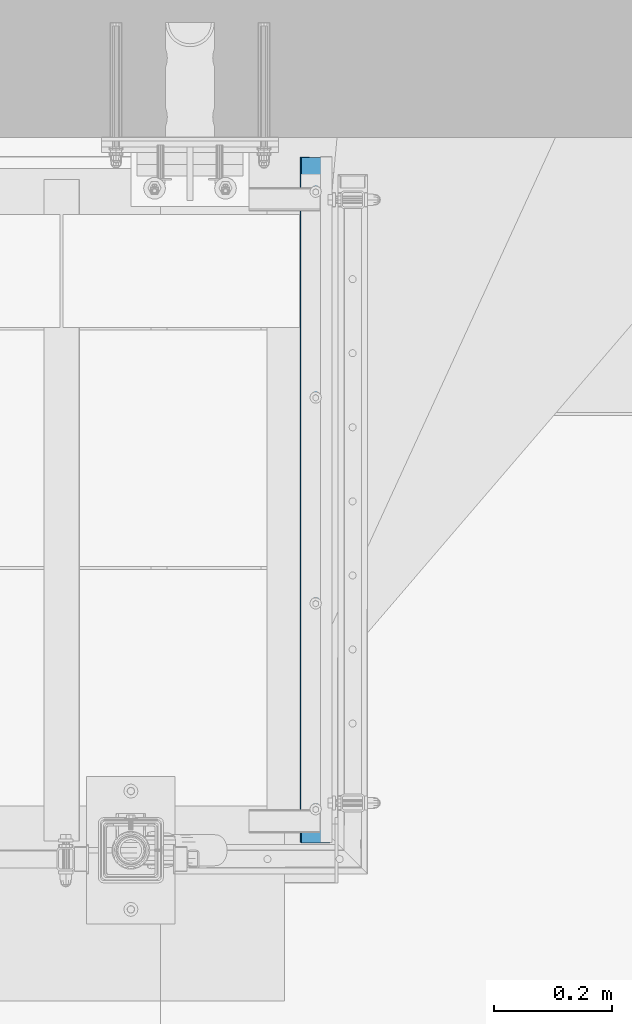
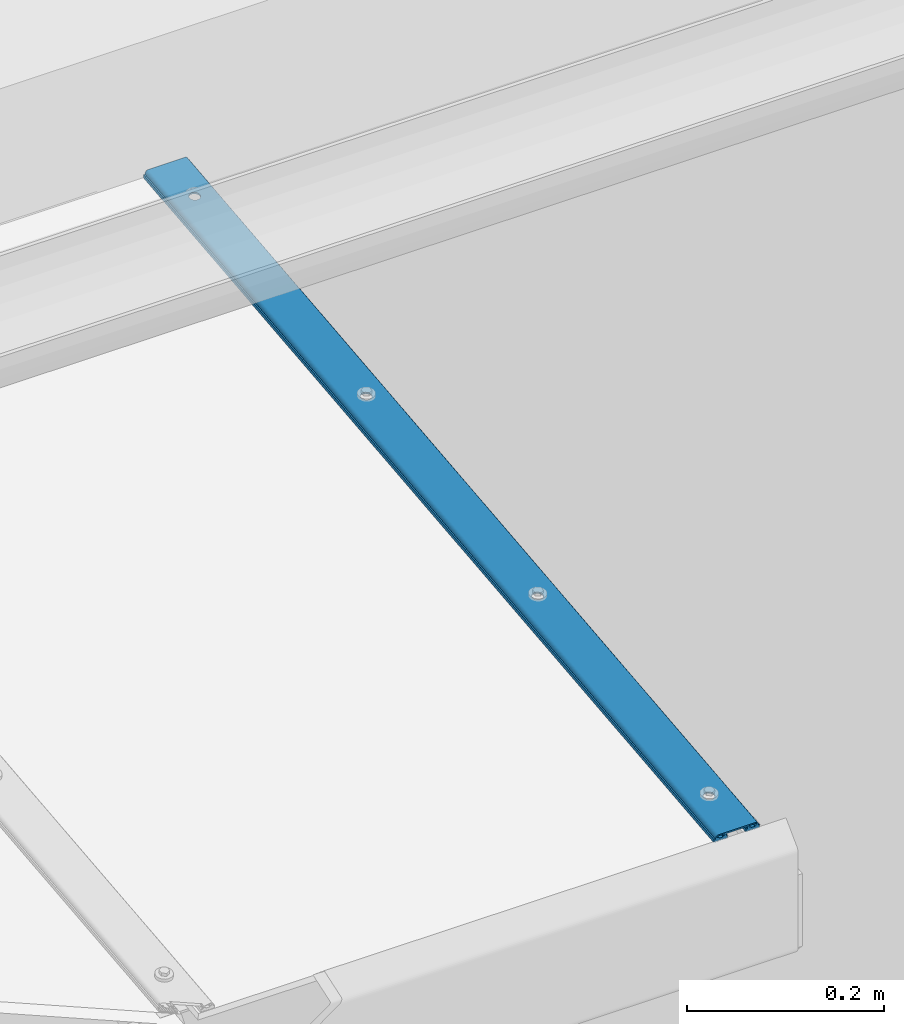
# One storey, part 46 of 162: 1 member, 4 openings.
"""IFC2X3 building model written with IfcOpenShell, lengths in millimetres."""

from ifc_helpers import new_model, entity, si_unit, converted_unit, point, frame, frame_2d, origin, origin_with_axes, origin_2d_with_axis, place, context, project, spatial, circle_curve, line_curve, trimmed, segment, composite_curve, circle, outline, extrude, material, element, save


model = new_model("IFC2X3")

# Units and contexts
model_context = context("Model", 3, precision=1e-09, world=origin_with_axes())
ifc_project = project(units=[si_unit("LENGTHUNIT", "METRE", prefix="MILLI"), si_unit("AREAUNIT", "SQUARE_METRE"), si_unit("VOLUMEUNIT", "CUBIC_METRE"), converted_unit("PLANEANGLEUNIT", "DEGREE", entity("IfcPlaneAngleMeasure", 0.01745329), si_unit("PLANEANGLEUNIT", "RADIAN"), dimensions=[0, 0, 0, 0, 0, 0, 0])], contexts=[model_context])

# Site, building, storey
site_placement = place(None, origin_with_axes())
site = spatial("IfcSite", under=ifc_project, at=site_placement, Name="Hermannstra?e 1a, 60318 Frankfurt", CompositionType="ELEMENT")
building_placement = place(site_placement, origin_with_axes())
building = spatial("IfcBuilding", under=site, at=building_placement, Name="Struktur 1", CompositionType="ELEMENT")
storey_placement = place(building_placement, origin_with_axes())
storey = spatial("IfcBuildingStorey", under=building, at=storey_placement, Name="Default Storey", CompositionType="ELEMENT", Elevation=0.0)

# Member, openings
ifc_material = material(Name="Alu")
member_placement = place(None, frame((5785.80936482, 1543.575957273, 17399.432480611), z_axis=(0.0, -0.994521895, -0.104528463), x_axis=(1.0, 0.0, 0.0)))
member = element("IfcMember", 1, at=member_placement, inside=storey, material=ifc_material, Name="Girder", ObjectType="Girder", context=model_context, shape_type="SweptSolid", body=[
    extrude(outline(composite_curve([segment(trimmed(line_curve((10.75, -4.5), (1.0, 0.0), 0.5), [point((10.75, -4.5))], [point((11.25, -4.5))], True, "CARTESIAN"), True, "CONTINUOUS"), segment(trimmed(line_curve((11.25, -4.5), (0.0, 1.0), 1.0), [point((11.25, -4.5))], [point((11.25, -3.5))], True, "CARTESIAN"), True, "CONTINUOUS"), segment(trimmed(line_curve((11.25, -3.5), (1.0, 0.0), 1.0), [point((11.25, -3.5))], [point((12.25, -3.5))], True, "CARTESIAN"), True, "CONTINUOUS"), segment(trimmed(line_curve((12.25, -3.5), (0.0, -1.0), 1.0), [point((12.25, -3.5))], [point((12.25, -4.5))], True, "CARTESIAN"), True, "CONTINUOUS"), segment(trimmed(line_curve((12.25, -4.5), (1.0, 0.0), 1.0), [point((12.25, -4.5))], [point((13.25, -4.5))], True, "CARTESIAN"), True, "CONTINUOUS"), segment(trimmed(line_curve((13.25, -4.5), (0.0, 1.0), 1.0), [point((13.25, -4.5))], [point((13.25, -3.5))], True, "CARTESIAN"), True, "CONTINUOUS"), segment(trimmed(line_curve((13.25, -3.5), (1.0, 0.0), 1.0), [point((13.25, -3.5))], [point((14.25, -3.5))], True, "CARTESIAN"), True, "CONTINUOUS"), segment(trimmed(line_curve((14.25, -3.5), (0.0, -1.0), 1.0), [point((14.25, -3.5))], [point((14.25, -4.5))], True, "CARTESIAN"), True, "CONTINUOUS"), segment(trimmed(line_curve((14.25, -4.5), (1.0, 0.0), 1.0), [point((14.25, -4.5))], [point((15.25, -4.5))], True, "CARTESIAN"), True, "CONTINUOUS"), segment(trimmed(line_curve((15.25, -4.5), (0.0, 1.0), 1.0), [point((15.25, -4.5))], [point((15.25, -3.5))], True, "CARTESIAN"), True, "CONTINUOUS"), segment(trimmed(line_curve((15.25, -3.5), (1.0, 0.0), 1.0), [point((15.25, -3.5))], [point((16.25, -3.5))], True, "CARTESIAN"), True, "CONTINUOUS"), segment(trimmed(line_curve((16.25, -3.5), (0.0, -1.0), 1.0), [point((16.25, -3.5))], [point((16.25, -4.5))], True, "CARTESIAN"), True, "CONTINUOUS"), segment(trimmed(line_curve((16.25, -4.5), (1.0, 0.0), 1.0), [point((16.25, -4.5))], [point((17.25, -4.5))], True, "CARTESIAN"), True, "CONTINUOUS"), segment(trimmed(line_curve((17.25, -4.5), (0.0, 1.0), 1.0), [point((17.25, -4.5))], [point((17.25, -3.5))], True, "CARTESIAN"), True, "CONTINUOUS"), segment(trimmed(line_curve((17.25, -3.5), (1.0, 0.0), 1.0), [point((17.25, -3.5))], [point((18.25, -3.5))], True, "CARTESIAN"), True, "CONTINUOUS"), segment(trimmed(line_curve((18.25, -3.5), (0.0, -1.0), 1.0), [point((18.25, -3.5))], [point((18.25, -4.5))], True, "CARTESIAN"), True, "CONTINUOUS"), segment(trimmed(line_curve((18.25, -4.5), (1.0, 0.0), 1.0), [point((18.25, -4.5))], [point((19.25, -4.5))], True, "CARTESIAN"), True, "CONTINUOUS"), segment(trimmed(line_curve((19.25, -4.5), (0.0, 1.0), 1.0), [point((19.25, -4.5))], [point((19.25, -3.5))], True, "CARTESIAN"), True, "CONTINUOUS"), segment(trimmed(line_curve((19.25, -3.5), (1.0, 0.0), 1.0), [point((19.25, -3.5))], [point((20.25, -3.5))], True, "CARTESIAN"), True, "CONTINUOUS"), segment(trimmed(line_curve((20.25, -3.5), (0.0, -1.0), 1.0), [point((20.25, -3.5))], [point((20.25, -4.5))], True, "CARTESIAN"), True, "CONTINUOUS"), segment(trimmed(line_curve((20.25, -4.5), (1.0, 0.0), 1.0), [point((20.25, -4.5))], [point((21.25, -4.5))], True, "CARTESIAN"), True, "CONTINUOUS"), segment(trimmed(line_curve((21.25, -4.5), (0.0, 1.0), 1.0), [point((21.25, -4.5))], [point((21.25, -3.5))], True, "CARTESIAN"), True, "CONTINUOUS"), segment(trimmed(line_curve((21.25, -3.5), (1.0, 0.0), 1.0), [point((21.25, -3.5))], [point((22.25, -3.5))], True, "CARTESIAN"), True, "CONTINUOUS"), segment(trimmed(line_curve((22.25, -3.5), (0.0, -1.0), 1.0), [point((22.25, -3.5))], [point((22.25, -4.5))], True, "CARTESIAN"), True, "CONTINUOUS"), segment(trimmed(line_curve((22.25, -4.5), (1.0, 0.0), 1.0), [point((22.25, -4.5))], [point((23.25, -4.5))], True, "CARTESIAN"), True, "CONTINUOUS"), segment(trimmed(line_curve((23.25, -4.5), (0.0, 1.0), 1.0), [point((23.25, -4.5))], [point((23.25, -3.5))], True, "CARTESIAN"), True, "CONTINUOUS"), segment(trimmed(line_curve((23.25, -3.5), (1.0, 0.0), 1.0), [point((23.25, -3.5))], [point((24.25, -3.5))], True, "CARTESIAN"), True, "CONTINUOUS"), segment(trimmed(line_curve((24.25, -3.5), (0.0, -1.0), 1.0), [point((24.25, -3.5))], [point((24.25, -4.5))], True, "CARTESIAN"), True, "CONTINUOUS"), segment(trimmed(line_curve((24.25, -4.5), (1.0, 0.0), 1.0), [point((24.25, -4.5))], [point((25.25, -4.5))], True, "CARTESIAN"), True, "CONTINUOUS"), segment(trimmed(line_curve((25.25, -4.5), (0.0, 1.0), 1.0), [point((25.25, -4.5))], [point((25.25, -3.5))], True, "CARTESIAN"), True, "CONTINUOUS"), segment(trimmed(line_curve((25.25, -3.5), (1.0, 0.0), 1.0), [point((25.25, -3.5))], [point((26.25, -3.5))], True, "CARTESIAN"), True, "CONTINUOUS"), segment(trimmed(line_curve((26.25, -3.5), (0.0, -1.0), 1.0), [point((26.25, -3.5))], [point((26.25, -4.5))], True, "CARTESIAN"), True, "CONTINUOUS"), segment(trimmed(line_curve((26.25, -4.5), (1.0, 0.0), 0.5), [point((26.25, -4.5))], [point((26.75, -4.5))], True, "CARTESIAN"), True, "CONTINUOUS"), segment(trimmed(line_curve((26.75, -4.5), (0.0, 1.0), 4.0), [point((26.75, -4.5))], [point((26.75, -0.5))], True, "CARTESIAN"), True, "CONTINUOUS"), segment(trimmed(line_curve((26.75, -0.5), (-1.0, 0.0), 1.75), [point((26.75, -0.5))], [point((25.0, -0.5))], True, "CARTESIAN"), True, "CONTINUOUS"), segment(trimmed(line_curve((25.0, -0.5), (0.0, 1.0), 1.5), [point((25.0, -0.5))], [point((25.0, 1.0))], True, "CARTESIAN"), True, "CONTINUOUS"), segment(trimmed(circle_curve(frame_2d((21.499999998, 0.999999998), x_axis=(1.0, 0.0)), 3.500000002), [point((25.0, 1.0))], [point((21.5, 4.5))], True, "CARTESIAN"), True, "CONTINUOUS"), segment(trimmed(line_curve((21.5, 4.5), (-1.0, 0.0), 43.0), [point((21.5, 4.5))], [point((-21.5, 4.5))], True, "CARTESIAN"), True, "CONTINUOUS"), segment(trimmed(circle_curve(frame_2d((-21.499999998, 0.999999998), x_axis=(1.0, 0.0)), 3.500000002), [point((-21.5, 4.5))], [point((-25.0, 1.0))], True, "CARTESIAN"), True, "CONTINUOUS"), segment(trimmed(line_curve((-25.0, 1.0), (0.0, -1.0), 1.5), [point((-25.0, 1.0))], [point((-25.0, -0.5))], True, "CARTESIAN"), True, "CONTINUOUS"), segment(trimmed(line_curve((-25.0, -0.5), (-1.0, 0.0), 1.75), [point((-25.0, -0.5))], [point((-26.75, -0.5))], True, "CARTESIAN"), True, "CONTINUOUS"), segment(trimmed(line_curve((-26.75, -0.5), (0.0, -1.0), 4.0), [point((-26.75, -0.5))], [point((-26.75, -4.5))], True, "CARTESIAN"), True, "CONTINUOUS"), segment(trimmed(line_curve((-26.75, -4.5), (1.0, 0.0), 0.5), [point((-26.75, -4.5))], [point((-26.25, -4.5))], True, "CARTESIAN"), True, "CONTINUOUS"), segment(trimmed(line_curve((-26.25, -4.5), (0.0, 1.0), 1.0), [point((-26.25, -4.5))], [point((-26.25, -3.5))], True, "CARTESIAN"), True, "CONTINUOUS"), segment(trimmed(line_curve((-26.25, -3.5), (1.0, 0.0), 1.0), [point((-26.25, -3.5))], [point((-25.25, -3.5))], True, "CARTESIAN"), True, "CONTINUOUS"), segment(trimmed(line_curve((-25.25, -3.5), (0.0, -1.0), 1.0), [point((-25.25, -3.5))], [point((-25.25, -4.5))], True, "CARTESIAN"), True, "CONTINUOUS"), segment(trimmed(line_curve((-25.25, -4.5), (1.0, 0.0), 1.0), [point((-25.25, -4.5))], [point((-24.25, -4.5))], True, "CARTESIAN"), True, "CONTINUOUS"), segment(trimmed(line_curve((-24.25, -4.5), (0.0, 1.0), 1.0), [point((-24.25, -4.5))], [point((-24.25, -3.5))], True, "CARTESIAN"), True, "CONTINUOUS"), segment(trimmed(line_curve((-24.25, -3.5), (1.0, 0.0), 1.0), [point((-24.25, -3.5))], [point((-23.25, -3.5))], True, "CARTESIAN"), True, "CONTINUOUS"), segment(trimmed(line_curve((-23.25, -3.5), (0.0, -1.0), 1.0), [point((-23.25, -3.5))], [point((-23.25, -4.5))], True, "CARTESIAN"), True, "CONTINUOUS"), segment(trimmed(line_curve((-23.25, -4.5), (1.0, 0.0), 1.0), [point((-23.25, -4.5))], [point((-22.25, -4.5))], True, "CARTESIAN"), True, "CONTINUOUS"), segment(trimmed(line_curve((-22.25, -4.5), (0.0, 1.0), 1.0), [point((-22.25, -4.5))], [point((-22.25, -3.5))], True, "CARTESIAN"), True, "CONTINUOUS"), segment(trimmed(line_curve((-22.25, -3.5), (1.0, 0.0), 1.0), [point((-22.25, -3.5))], [point((-21.25, -3.5))], True, "CARTESIAN"), True, "CONTINUOUS"), segment(trimmed(line_curve((-21.25, -3.5), (0.0, -1.0), 1.0), [point((-21.25, -3.5))], [point((-21.25, -4.5))], True, "CARTESIAN"), True, "CONTINUOUS"), segment(trimmed(line_curve((-21.25, -4.5), (1.0, 0.0), 1.0), [point((-21.25, -4.5))], [point((-20.25, -4.5))], True, "CARTESIAN"), True, "CONTINUOUS"), segment(trimmed(line_curve((-20.25, -4.5), (0.0, 1.0), 1.0), [point((-20.25, -4.5))], [point((-20.25, -3.5))], True, "CARTESIAN"), True, "CONTINUOUS"), segment(trimmed(line_curve((-20.25, -3.5), (1.0, 0.0), 1.0), [point((-20.25, -3.5))], [point((-19.25, -3.5))], True, "CARTESIAN"), True, "CONTINUOUS"), segment(trimmed(line_curve((-19.25, -3.5), (0.0, -1.0), 1.0), [point((-19.25, -3.5))], [point((-19.25, -4.5))], True, "CARTESIAN"), True, "CONTINUOUS"), segment(trimmed(line_curve((-19.25, -4.5), (1.0, 0.0), 1.0), [point((-19.25, -4.5))], [point((-18.25, -4.5))], True, "CARTESIAN"), True, "CONTINUOUS"), segment(trimmed(line_curve((-18.25, -4.5), (0.0, 1.0), 1.0), [point((-18.25, -4.5))], [point((-18.25, -3.5))], True, "CARTESIAN"), True, "CONTINUOUS"), segment(trimmed(line_curve((-18.25, -3.5), (1.0, 0.0), 1.0), [point((-18.25, -3.5))], [point((-17.25, -3.5))], True, "CARTESIAN"), True, "CONTINUOUS"), segment(trimmed(line_curve((-17.25, -3.5), (0.0, -1.0), 1.0), [point((-17.25, -3.5))], [point((-17.25, -4.5))], True, "CARTESIAN"), True, "CONTINUOUS"), segment(trimmed(line_curve((-17.25, -4.5), (1.0, 0.0), 1.0), [point((-17.25, -4.5))], [point((-16.25, -4.5))], True, "CARTESIAN"), True, "CONTINUOUS"), segment(trimmed(line_curve((-16.25, -4.5), (0.0, 1.0), 1.0), [point((-16.25, -4.5))], [point((-16.25, -3.5))], True, "CARTESIAN"), True, "CONTINUOUS"), segment(trimmed(line_curve((-16.25, -3.5), (1.0, 0.0), 1.0), [point((-16.25, -3.5))], [point((-15.25, -3.5))], True, "CARTESIAN"), True, "CONTINUOUS"), segment(trimmed(line_curve((-15.25, -3.5), (0.0, -1.0), 1.0), [point((-15.25, -3.5))], [point((-15.25, -4.5))], True, "CARTESIAN"), True, "CONTINUOUS"), segment(trimmed(line_curve((-15.25, -4.5), (1.0, 0.0), 1.0), [point((-15.25, -4.5))], [point((-14.25, -4.5))], True, "CARTESIAN"), True, "CONTINUOUS"), segment(trimmed(line_curve((-14.25, -4.5), (0.0, 1.0), 1.0), [point((-14.25, -4.5))], [point((-14.25, -3.5))], True, "CARTESIAN"), True, "CONTINUOUS"), segment(trimmed(line_curve((-14.25, -3.5), (1.0, 0.0), 1.0), [point((-14.25, -3.5))], [point((-13.25, -3.5))], True, "CARTESIAN"), True, "CONTINUOUS"), segment(trimmed(line_curve((-13.25, -3.5), (0.0, -1.0), 1.0), [point((-13.25, -3.5))], [point((-13.25, -4.5))], True, "CARTESIAN"), True, "CONTINUOUS"), segment(trimmed(line_curve((-13.25, -4.5), (1.0, 0.0), 1.0), [point((-13.25, -4.5))], [point((-12.25, -4.5))], True, "CARTESIAN"), True, "CONTINUOUS"), segment(trimmed(line_curve((-12.25, -4.5), (0.0, 1.0), 1.0), [point((-12.25, -4.5))], [point((-12.25, -3.5))], True, "CARTESIAN"), True, "CONTINUOUS"), segment(trimmed(line_curve((-12.25, -3.5), (1.0, 0.0), 1.0), [point((-12.25, -3.5))], [point((-11.25, -3.5))], True, "CARTESIAN"), True, "CONTINUOUS"), segment(trimmed(line_curve((-11.25, -3.5), (0.0, -1.0), 1.0), [point((-11.25, -3.5))], [point((-11.25, -4.5))], True, "CARTESIAN"), True, "CONTINUOUS"), segment(trimmed(line_curve((-11.25, -4.5), (1.0, 0.0), 0.5), [point((-11.25, -4.5))], [point((-10.75, -4.5))], True, "CARTESIAN"), True, "CONTINUOUS"), segment(trimmed(line_curve((-10.75, -4.5), (0.0, 1.0), 4.0), [point((-10.75, -4.5))], [point((-10.75, -0.5))], True, "CARTESIAN"), True, "CONTINUOUS"), segment(trimmed(line_curve((-10.75, -0.5), (-1.0, 0.0), 1.75), [point((-10.75, -0.5))], [point((-12.5, -0.5))], True, "CARTESIAN"), True, "CONTINUOUS"), segment(trimmed(line_curve((-12.5, -0.5), (0.0, 1.0), 3.0), [point((-12.5, -0.5))], [point((-12.5, 2.5))], True, "CARTESIAN"), True, "CONTINUOUS"), segment(trimmed(line_curve((-12.5, 2.5), (1.0, 0.0), 25.0), [point((-12.5, 2.5))], [point((12.5, 2.5))], True, "CARTESIAN"), True, "CONTINUOUS"), segment(trimmed(line_curve((12.5, 2.5), (0.0, -1.0), 3.0), [point((12.5, 2.5))], [point((12.5, -0.5))], True, "CARTESIAN"), True, "CONTINUOUS"), segment(trimmed(line_curve((12.5, -0.5), (-1.0, 0.0), 1.75), [point((12.5, -0.5))], [point((10.75, -0.5))], True, "CARTESIAN"), True, "CONTINUOUS"), segment(trimmed(line_curve((10.75, -0.5), (0.0, -1.0), 4.0), [point((10.75, -0.5))], [point((10.75, -4.5))], True, "CARTESIAN"), True, "CONTINUOUS")], self_intersect=False), holes=[composite_curve([segment(trimmed(line_curve((16.25, -0.5), (1.0, 0.0), 5.0), [point((16.25, -0.5))], [point((21.25, -0.5))], True, "CARTESIAN"), True, "CONTINUOUS"), segment(trimmed(line_curve((21.25, -0.5), (0.0, 1.0), 1.5), [point((21.25, -0.5))], [point((21.25, 1.0))], True, "CARTESIAN"), True, "CONTINUOUS"), segment(trimmed(line_curve((21.25, 1.0), (1.0, 0.0), 2.25), [point((21.25, 1.0))], [point((23.5, 1.0))], True, "CARTESIAN"), True, "CONTINUOUS"), segment(trimmed(circle_curve(frame_2d((21.499999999, 0.999999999), x_axis=(1.0, 0.0)), 2.000000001), [point((23.5, 1.0))], [point((21.5, 3.0))], True, "CARTESIAN"), True, "CONTINUOUS"), segment(trimmed(line_curve((21.5, 3.0), (-1.0, 0.0), 7.5), [point((21.5, 3.0))], [point((14.0, 3.0))], True, "CARTESIAN"), True, "CONTINUOUS"), segment(trimmed(line_curve((14.0, 3.0), (0.0, -1.0), 2.0), [point((14.0, 3.0))], [point((14.0, 1.0))], True, "CARTESIAN"), True, "CONTINUOUS"), segment(trimmed(line_curve((14.0, 1.0), (1.0, 0.0), 2.25), [point((14.0, 1.0))], [point((16.25, 1.0))], True, "CARTESIAN"), True, "CONTINUOUS"), segment(trimmed(line_curve((16.25, 1.0), (0.0, -1.0), 1.5), [point((16.25, 1.0))], [point((16.25, -0.5))], True, "CARTESIAN"), True, "CONTINUOUS")], self_intersect=False), composite_curve([segment(trimmed(line_curve((-16.25, -0.5), (0.0, 1.0), 1.5), [point((-16.25, -0.5))], [point((-16.25, 1.0))], True, "CARTESIAN"), True, "CONTINUOUS"), segment(trimmed(line_curve((-16.25, 1.0), (1.0, 0.0), 2.25), [point((-16.25, 1.0))], [point((-14.0, 1.0))], True, "CARTESIAN"), True, "CONTINUOUS"), segment(trimmed(line_curve((-14.0, 1.0), (0.0, 1.0), 2.0), [point((-14.0, 1.0))], [point((-14.0, 3.0))], True, "CARTESIAN"), True, "CONTINUOUS"), segment(trimmed(line_curve((-14.0, 3.0), (-1.0, 0.0), 7.5), [point((-14.0, 3.0))], [point((-21.5, 3.0))], True, "CARTESIAN"), True, "CONTINUOUS"), segment(trimmed(circle_curve(frame_2d((-21.499999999, 0.999999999), x_axis=(1.0, 0.0)), 2.000000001), [point((-21.5, 3.0))], [point((-23.5, 1.0))], True, "CARTESIAN"), True, "CONTINUOUS"), segment(trimmed(line_curve((-23.5, 1.0), (1.0, 0.0), 2.25), [point((-23.5, 1.0))], [point((-21.25, 1.0))], True, "CARTESIAN"), True, "CONTINUOUS"), segment(trimmed(line_curve((-21.25, 1.0), (0.0, -1.0), 1.5), [point((-21.25, 1.0))], [point((-21.25, -0.5))], True, "CARTESIAN"), True, "CONTINUOUS"), segment(trimmed(line_curve((-21.25, -0.5), (1.0, 0.0), 5.0), [point((-21.25, -0.5))], [point((-16.25, -0.5))], True, "CARTESIAN"), True, "CONTINUOUS")], self_intersect=False)]), origin(), (0.0, 0.0, -1.0), 1164.995580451),
])
opening_1_placement = place(member_placement, frame((2e-09, 2.0, -407.497790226), z_axis=(0.0, 1.0, 0.0), x_axis=(1.0, 0.0, 0.0)))
element("IfcOpeningElement", 2, at=opening_1_placement, cuts=member, ObjectType="Opening", context=model_context, shape_type="SweptSolid", body=[
    extrude(circle(Radius=6.001, at=origin_2d_with_axis()), origin(), (0.0, 0.0, 1.0), 3.0),
])
opening_2_placement = place(member_placement, frame((2e-09, 2.0, -1107.497790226), z_axis=(0.0, 1.0, 0.0), x_axis=(1.0, 0.0, 0.0)))
element("IfcOpeningElement", 3, at=opening_2_placement, cuts=member, ObjectType="Opening", context=model_context, shape_type="SweptSolid", body=[
    extrude(circle(Radius=6.001, at=origin_2d_with_axis()), origin(), (0.0, 0.0, 1.0), 3.0),
])
opening_3_placement = place(member_placement, frame((2e-09, 2.0, -57.497790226), z_axis=(0.0, 1.0, 0.0), x_axis=(1.0, 0.0, 0.0)))
element("IfcOpeningElement", 4, at=opening_3_placement, cuts=member, ObjectType="Opening", context=model_context, shape_type="SweptSolid", body=[
    extrude(circle(Radius=6.001, at=origin_2d_with_axis()), origin(), (0.0, 0.0, 1.0), 3.0),
])
opening_4_placement = place(member_placement, frame((2e-09, 2.0, -757.497790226), z_axis=(0.0, 1.0, 0.0), x_axis=(1.0, 0.0, 0.0)))
element("IfcOpeningElement", 5, at=opening_4_placement, cuts=member, ObjectType="Opening", context=model_context, shape_type="SweptSolid", body=[
    extrude(circle(Radius=6.001, at=origin_2d_with_axis()), origin(), (0.0, 0.0, 1.0), 3.0),
])

save(model, "model.ifc")
